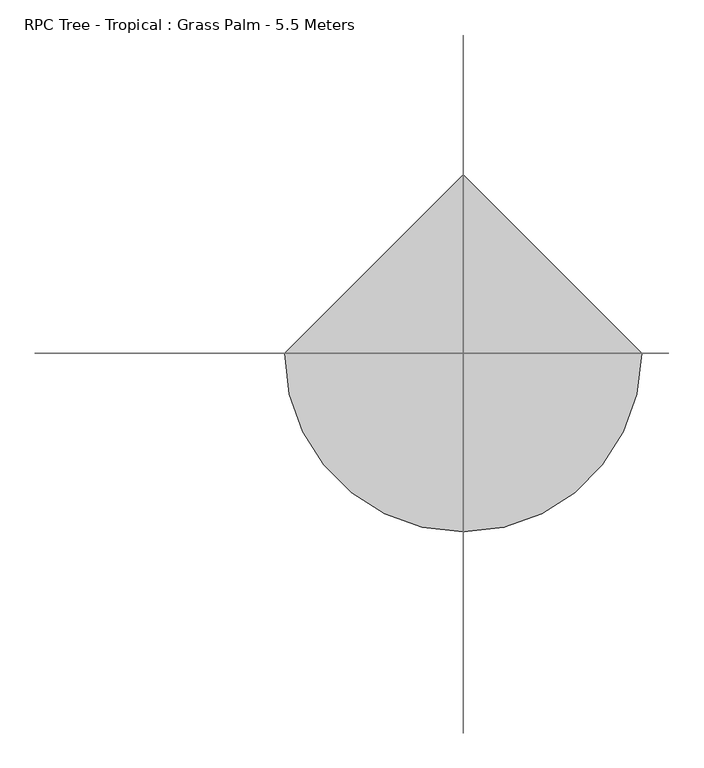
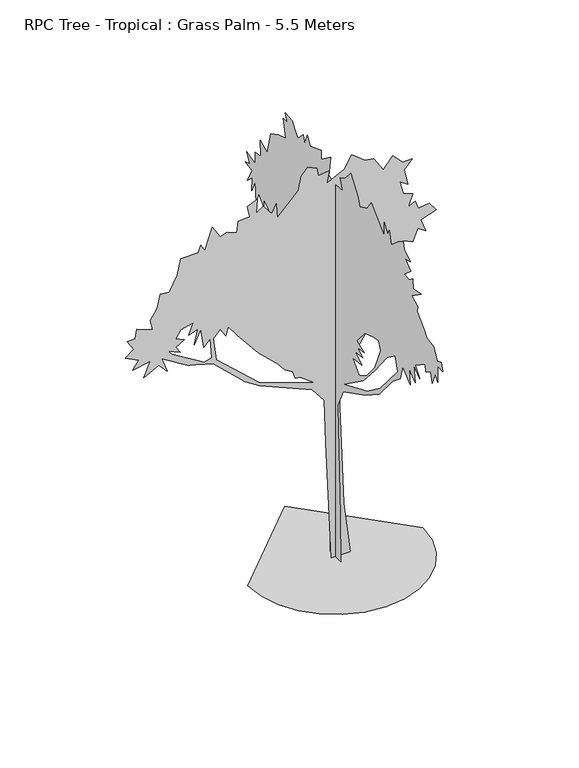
"""IFC4 building model written with IfcOpenShell, lengths in millimetres: geographic element geometry, RPC Tree - Tropical : Grass Palm - 5.5 Meters."""

from ifc_helpers import new_model, si_unit, origin, place, context, project, spatial, triangles, source, transform, mapped, element, save


def rpc_tree_tropical_grass_palm_5_5_meters_0f61173e(model_context):
    return source(origin(), model_context, "Body", "Tessellation", [
        triangles([(198.5121563, -0.0004669, 0.000137), (109.5820013, -0.0002641, 696.282209), (43.8536913, 0.0002053, 2386.4069527), (410.3796021, 0.0003086, 2969.8983719), (572.0261307, 0.000406, 3417.6646454), (609.3777389, 0.0004587, 3632.4192696), (721.4325634, 0.000452, 3669.7733849), (656.0666405, 0.0004949, 3791.1807999), (749.4469145, 0.0005265, 3959.2618195), (777.4587221, 0.0005019, 3884.5535889), (880.1763622, 0.0005321, 4052.6346085), (1010.9057373, 0.0004946, 3987.2711563), (1076.2717329, 0.0005304, 4155.3521759), (1178.9867569, 0.0004946, 4080.6439453), (1113.6233774, 0.0005527, 4258.0697433), (1319.0559689, 0.0005395, 4323.4331955), (1225.6756222, 0.0005866, 4444.8150307), (1085.6090263, 0.0006027, 4426.1507629), (1042.0062372, 0.0006404, 4540.8870735), (954.8795786, 0.0006402, 4491.5142151), (1010.9057373, 0.0006749, 4650.2504562), (889.3481134, 0.0007069, 4700.3869308), (842.8247177, 0.0007612, 4874.3754387), (945.5397417, 0.0007279, 4808.9864067), (898.8508764, 0.0007933, 5023.7666107), (1001.5685165, 0.0008083, 5135.8289566), (880.1763622, 0.0008266, 5135.8289566), (749.4469145, 0.0008819, 5266.5558609), (628.0548328, 0.0008596, 5117.1393997), (505.3182475, 0.0009317, 5314.2482986), (385.2705606, 0.0009547, 5331.919313), (217.1877242, 0.0010181, 5471.9909958), (114.4714012, 0.000988, 5303.9099762), (-109.6373213, 0.0009913, 5191.8476303), (-81.6239785, 0.0010303, 5350.5838715), (-221.6916826, 0.0010463, 5331.919313), (-240.3675048, 0.0010796, 5443.9816589), (-361.7593503, 0.0011132, 5500.0003326), (-445.7998964, 0.0011005, 5406.6275436), (-483.1515046, 0.0010553, 5219.8569672), (-753.9502007, 0.0010201, 4939.7386002), (-772.6247149, 0.0010762, 5135.8289566), (-828.653417, 0.0010542, 5023.7666107), (-940.7082779, 0.0011092, 5163.8382935), (-1034.0860811, 0.0011055, 5098.4748413), (-1015.4090235, 0.0011535, 5285.2204193), (-1146.140942, 0.001158, 5229.2017456), (-1118.1265909, 0.0011131, 5079.7852844), (-1267.5330963, 0.0011332, 5070.4655045), (-1286.2076832, 0.0010954, 4921.0490433), (-1407.5996922, 0.0011264, 4967.747937), (-1500.9775681, 0.0011329, 4939.7386002), (-1603.6951355, 0.0011941, 5107.8196198), (-1706.4127029, 0.0011309, 4818.3314758), (-1753.1017136, 0.0011633, 4911.7042648), (-1790.4532127, 0.0011436, 4818.3314758), (-2014.5604637, 0.0011774, 4818.3314758), (-2061.249329, 0.0011261, 4603.5768517), (-2163.9668964, 0.0010882, 4407.4609154), (-2285.3590508, 0.0011091, 4416.8059845), (-2322.7106953, 0.0010665, 4239.3798958), (-2416.0885712, 0.0010425, 4099.3337929), (-2382.6964233, 0.0010016, 3967.2572617), (-2593.5117531, 0.0010541, 4043.2895393), (-2612.1760208, 0.0010239, 3921.9077042), (-2714.8935883, 0.0010369, 3912.5629257), (-2630.8658684, 0.0009886, 3781.8360214), (-2742.9029251, 0.0009827, 3697.7827217), (-2565.5024162, 0.0009305, 3604.4099327), (-2640.1853577, 0.0009113, 3492.3475868), (-2416.0885712, 0.0008902, 3539.0464806), (-2500.1287903, 0.0008496, 3342.9564148), (-2304.0361084, 0.0008479, 3445.6739822), (-2191.9813202, 0.000798, 3324.2665672), (-2266.6819931, 0.0008626, 3520.3822128), (-1932.5900311, 0.0007558, 3313.3428154), (-1590.273571, 0.0006787, 3219.8174194), (-1172.1055635, 0.0005081, 2824.7595566), (-982.5363207, 0.0004459, 2701.1877388), (-300.5056764, 0.0002631, 2407.6914093), (-143.5331084, 0.0001855, 2209.3782234), (-126.2243993, 2.09e-05, 1613.6007809), (-53.6101361, -0.0004288, 0.000137), (-1500.9775681, 0.0008979, 3660.4538956), (-1426.2768951, 0.0008562, 3548.3915497), (-1398.2624714, 0.0008824, 3660.4538956), (-1276.8703171, 0.0008209, 3501.6923653), (-1004.3554831, 0.0003611, 3164.2318588), (-746.3927404, 0.0005806, 2912.4030441), (-661.4253977, 0.0005394, 2808.0812141), (-557.8547573, 0.0005067, 2745.340567), (-520.5031128, 0.0004731, 2642.6229996), (-455.1371535, 0.0004607, 2633.2779305), (-268.3816016, 0.0003944, 2493.2088638), (-997.3532215, 0.0005761, 2756.6459816), (-1553.2123158, 0.0007974, 3261.8314247), (-1594.3579147, 0.0008866, 3567.0558174), (-2023.9003006, 0.0008876, 3529.7017021), (-2079.9263866, 0.0009189, 3613.7550018), (-1967.8715984, 0.0009197, 3679.118454), (-2079.9263866, 0.0009519, 3735.136837), (-2014.5604637, 0.00097, 3837.8544044), (-1855.8166649, 0.0009561, 3875.2085197), (-1911.8453671, 0.000924, 3725.8173477), (-1795.9710445, 0.0009167, 3763.5025475), (-1842.3900135, 0.0008704, 3567.2848732), (-1753.1017136, 0.0009076, 3753.8266846), (-1715.750069, 0.0008309, 3492.3475868), (-1631.7095592, 0.0008411, 3576.4008865), (-1612.4492523, 0.0007652, 3307.9445984), (-1712.8319332, 0.0007726, 3279.4007011), (-2135.952618, 0.000907, 3539.0464806), (-2182.6440994, 0.0009293, 3595.0651543), (0.1967722, -126.2945259, 0.0001596), (0.196734, -114.2887362, 634.3486347), (0.1967033, -52.2143547, 2120.548035), (0.1966846, -175.5378682, 2379.5675446), (0.1966095, -673.1974989, 2636.9445671), (0.1965211, -992.9715849, 2843.0418709), (0.1965145, -1302.1785107, 3208.1809204), (0.196489, -1470.9471336, 3342.9564148), (0.1964806, -1526.9732197, 3548.3915497), (0.1964552, -1695.0542393, 3398.9747978), (0.1964594, -1667.0424316, 3604.4099327), (0.1964383, -1807.1091728, 3492.372876), (0.1964439, -1769.7575283, 3716.4725693), (0.1964228, -1909.8242695, 3613.7550018), (0.1964383, -1807.1091728, 3735.136837), (0.1964044, -2031.2188946, 3884.5535889), (0.1964016, -2049.8934814, 3791.1807999), (0.1963861, -2152.6110489, 3847.1994736), (0.1963805, -2189.9600773, 3716.4725693), (0.1963706, -2255.3261456, 3884.5535889), (0.1963607, -2320.6920685, 3809.8450676), (0.1963607, -2320.6920685, 4033.9447609), (0.1963438, -2432.7443859, 4024.6252716), (0.1963495, -2395.3953575, 4136.6623283), (0.1963636, -2302.0150108, 4089.9887238), (0.1963748, -2227.3117218, 4248.7249649), (0.1963988, -2068.5705391, 4276.7340111), (0.1964073, -2012.5418369, 4351.4425323), (0.1963912, -1853.7980381, 4500.8592842), (0.1963898, -1863.1354042, 4575.541935), (0.1964095, -1732.4058838, 4650.2504562), (0.1963771, -1947.175914, 4799.6669174), (0.1964053, -1760.4203075, 4762.3128021), (0.1964067, -1751.0829414, 4893.0397064), (0.196418, -1676.3797977, 4837.0213234), (0.1964349, -1564.3248642, 4846.340522), (0.1964137, -1704.3916054, 4967.747937), (0.1964321, -1583.0019218, 5070.4655045), (0.1964151, -1695.0542393, 5098.4748413), (0.1964363, -1554.9876434, 5182.5028519), (0.1964391, -1536.3105858, 5275.9006393), (0.196456, -1424.2556522, 5210.5371872), (0.19648, -1265.5118534, 5070.4655045), (0.196487, -1218.8229881, 5238.546524), (0.1964927, -1181.4714163, 5163.8382935), (0.1964639, -1106.7706707, 5285.2204193), (0.196504, -1106.7706707, 5098.4748413), (0.1964895, -937.1364029, 5255.9634842), (0.196509, -807.9577326, 5369.2734283), (0.196521, -728.2942812, 5249.9283875), (0.1965471, -555.8361669, 5163.8382935), (0.1965527, -518.4845223, 5266.5558609), (0.1965781, -350.4035028, 5500.0003326), (0.1965964, -229.0103492, 5359.9286499), (0.1966148, -107.618204, 5294.5651978), (0.1966063, -163.6456435, 5145.173735), (0.1966288, -14.2397308, 5135.8289566), (0.1966528, 144.5038522, 5163.8382935), (0.1966472, 107.1527437, 5443.9816589), (0.1966782, 312.5858983, 5294.5651978), (0.1966782, 312.5858983, 5415.9473236), (0.1967163, 564.707464, 5322.5745346), (0.1967261, 630.0734596, 5434.6368805), (0.196736, 695.4368391, 5275.9006393), (0.1967402, 723.4511902, 5378.6182068), (0.1967586, 844.8433445, 5257.2110825), (0.1967684, 910.2093401, 5322.5745346), (0.1967783, 975.5727922, 5425.2921021), (0.1967622, 1134.3165184, 5434.6368805), (0.1967952, 1087.6276531, 5331.919313), (0.1968083, 1174.4359446, 5339.303746), (0.1967995, 1115.6420042, 5098.4748413), (0.1968263, 1293.0603172, 5033.1113892), (0.1968508, 1455.9824947, 4950.7135117), (0.1968629, 1535.8446259, 4640.9053871), (0.1968869, 1694.5882793, 4715.6139084), (0.1968855, 1685.2510586, 4500.8592842), (0.1969038, 1806.6432129, 4482.1694366), (0.1969038, 1806.6432129, 4323.4331955), (0.1969334, 2002.7386562, 4370.1068001), (0.1969223, 1928.9571133, 4250.787339), (0.1969389, 2038.9214767, 4214.579084), (0.1969151, 1881.3465019, 4183.3615128), (0.196932, 1993.4012901, 3987.2711563), (0.1969137, 1872.0091358, 4089.9887238), (0.1969165, 1890.6837227, 3903.2178566), (0.1969038, 1806.6432129, 4080.6439453), (0.196901, 1787.968626, 3800.5002892), (0.1968925, 1731.9399239, 3959.2618195), (0.1968756, 1619.8851357, 3847.1994736), (0.1968756, 1619.8851357, 3949.917041), (0.196869, 1310.8614109, 3745.6530556), (0.1968099, 919.5466335, 3632.4192696), (0.1967908, 792.5526409, 3237.1576401), (0.1967898, 785.995919, 3141.3913925), (0.1967733, 676.7623249, 3072.1575371), (0.1967987, 844.8433445, 2941.4309235), (0.1967817, 732.7884836, 2978.7850388), (0.1968246, 751.4629978, 2782.6946823), (0.1968091, 648.7479738, 2913.4215866), (0.1968063, 630.0734596, 2679.9771149), (0.1968021, 602.0590722, 2782.6946823), (0.1967978, 574.0447211, 2679.9771149), (0.1967908, 527.3558195, 2848.0581345), (0.1967866, 499.3414684, 2689.2966042), (0.1967837, 480.6669542, 2614.6136627), (0.1967781, 443.3153097, 2745.340567), (0.1967682, 377.9493505, 2661.2872673), (0.1967491, 251.276432, 2499.1212936), (0.1966956, 162.3905602, 2114.1747322), (0.1967682, 112.1317639, 1064.5480299), (0.1968089, 116.4897555, 0.0001162), (0.1965757, -631.608831, 2807.9538963), (0.196537, -888.1940414, 3104.5465485), (0.1964954, -1163.6294821, 3449.6205437), (0.1964659, -1358.8922001, 3595.0651543), (0.1964574, -1414.9184315, 3408.3195763), (0.1965169, -1021.2762526, 2939.164492), (0.1965619, -722.832478, 2719.5465019), (0.1966421, -191.6594859, 2493.2088638), (0.1966027, -453.1185631, 2988.104528), (0.1965815, -593.187775, 2997.4493065), (0.1966027, -453.1185631, 3100.1668739), (0.1965773, -621.2021261, 3118.8567215), (0.1965942, -509.0072302, 3191.7316338), (0.1965716, -658.5512272, 3212.2295105), (0.196597, -490.4701713, 3277.5929626), (0.1965705, -666.1620998, 3486.8985008), (0.1965392, -873.3236555, 3557.7363281), (0.1965223, -985.3785164, 3576.4008865), (0.1965161, -1026.231328, 3465.2294746), (0.1965365, -891.2878206, 3143.9121689), (0.1965617, -724.2889297, 2942.0163528), (0.19659, -537.1590729, 2820.0235085), (0.1966111, -397.0924044, 2978.7850388), (-1142.7569189, 0.0, 0.000137), (-1112.5425568, -261.8891381, 0.0001838), (-1026.4879257, -502.3944798, 0.0002268), (-891.4833029, -714.6206245, 0.0002648), (-714.4239796, -891.6799479, 0.0002965), (-502.195255, -1026.6845707, 0.0), (-261.692475, -1112.7392017, 1.54e-05), (0.1967389, -1142.9535639, 2.08e-05), (262.0858013, -1112.7392017, 1.54e-05), (502.5911611, -1026.6845707, 0.0), (714.8172695, -891.6799479, 0.0002965), (891.8765928, -714.6206245, 0.0002648), (1026.8812157, -502.3919363, 0.0002268), (1112.9358467, -261.8891381, 0.0001838), (1143.1502089, 9.99e-05, 0.000137), (0.1965231, 1142.9535639, 0.0002532)], [[95, 110, 96], [86, 3, 87], [87, 3, 88], [88, 3, 89], [106, 105, 107], [89, 3, 90], [90, 3, 91], [74, 73, 75], [42, 41, 43], [14, 13, 15], [98, 113, 99], [72, 71, 73], [96, 110, 97], [110, 109, 97], [70, 69, 71], [24, 23, 25], [26, 25, 27], [85, 84, 86], [55, 54, 56], [53, 52, 54], [104, 103, 105], [10, 9, 11], [108, 107, 109], [100, 99, 101], [46, 45, 47], [47, 45, 48], [66, 65, 67], [68, 67, 69], [16, 15, 17], [17, 15, 18], [35, 34, 36], [73, 71, 75], [64, 63, 65], [7, 6, 8], [3, 86, 4], [19, 18, 20], [32, 31, 33], [1, 83, 2], [83, 82, 2], [2, 82, 3], [82, 81, 3], [28, 27, 29], [12, 11, 13], [81, 80, 3], [4, 86, 5], [5, 86, 6], [21, 20, 22], [44, 43, 45], [27, 25, 29], [25, 23, 29], [60, 59, 61], [99, 113, 101], [49, 48, 50], [57, 56, 58], [6, 86, 8], [38, 37, 39], [37, 36, 39], [39, 36, 40], [36, 34, 40], [65, 63, 67], [67, 63, 69], [69, 63, 71], [71, 63, 75], [92, 91, 93], [91, 3, 93], [93, 3, 94], [3, 80, 94], [80, 79, 94], [94, 79, 95], [79, 78, 95], [95, 78, 110], [78, 77, 110], [110, 77, 111], [77, 76, 111], [111, 76, 112], [76, 75, 112], [112, 75, 113], [75, 63, 113], [113, 63, 101], [101, 63, 102], [97, 109, 84], [109, 107, 84], [8, 86, 9], [63, 62, 102], [62, 61, 102], [61, 59, 102], [102, 59, 103], [59, 58, 103], [58, 56, 103], [56, 54, 103], [18, 15, 20], [15, 13, 20], [13, 11, 20], [54, 52, 103], [52, 51, 103], [51, 50, 103], [103, 50, 105], [105, 50, 107], [107, 50, 84], [84, 50, 86], [86, 50, 9], [50, 48, 9], [48, 45, 9], [40, 34, 41], [30, 29, 31], [31, 29, 33], [33, 29, 34], [11, 9, 20], [29, 23, 34], [23, 22, 34], [34, 22, 41], [22, 20, 41], [20, 9, 41], [9, 45, 41], [45, 43, 41], [226, 245, 246], [245, 226, 227], [233, 116, 117], [126, 127, 128], [209, 210, 211], [198, 199, 200], [213, 214, 215], [196, 197, 198], [226, 246, 247], [200, 201, 202], [144, 145, 146], [238, 239, 240], [194, 195, 196], [218, 219, 220], [215, 216, 217], [158, 159, 160], [211, 212, 213], [245, 227, 228], [244, 245, 228], [131, 132, 133], [236, 237, 238], [234, 235, 236], [122, 123, 124], [133, 134, 135], [124, 125, 126], [156, 157, 158], [233, 226, 247], [192, 193, 194], [202, 203, 204], [151, 152, 153], [171, 172, 173], [175, 176, 177], [233, 117, 118], [232, 233, 118], [232, 118, 119], [231, 232, 119], [231, 119, 120], [230, 231, 120], [230, 120, 121], [217, 218, 220], [230, 121, 122], [229, 230, 122], [146, 147, 148], [177, 178, 179], [181, 182, 183], [188, 189, 190], [135, 136, 137], [135, 137, 138], [213, 215, 217], [173, 174, 175], [153, 154, 155], [183, 184, 185], [129, 130, 131], [165, 166, 167], [149, 150, 151], [161, 162, 163], [180, 181, 183], [192, 194, 196], [225, 114, 115], [224, 225, 115], [224, 115, 116], [223, 224, 116], [156, 158, 160], [233, 247, 248], [180, 183, 185], [179, 180, 185], [209, 211, 213], [167, 168, 169], [165, 167, 169], [164, 165, 169], [190, 191, 192], [248, 234, 236], [222, 223, 116], [222, 116, 233], [196, 198, 200], [222, 233, 248], [221, 222, 248], [220, 221, 248], [142, 143, 144], [217, 220, 248], [192, 196, 200], [151, 153, 155], [151, 155, 156], [149, 151, 156], [243, 244, 228], [243, 228, 229], [144, 146, 148], [144, 148, 149], [217, 248, 236], [138, 139, 140], [207, 208, 209], [200, 202, 204], [192, 200, 204], [190, 192, 204], [188, 190, 204], [188, 204, 205], [188, 205, 206], [209, 213, 217], [209, 217, 236], [209, 236, 238], [209, 238, 240], [207, 209, 240], [206, 207, 240], [206, 240, 241], [188, 206, 241], [187, 188, 241], [186, 187, 241], [185, 186, 241], [179, 185, 241], [177, 179, 241], [175, 177, 241], [173, 175, 241], [171, 173, 241], [170, 171, 241], [169, 170, 241], [164, 169, 241], [164, 241, 242], [164, 242, 243], [163, 164, 243], [161, 163, 243], [160, 161, 243], [160, 243, 229], [156, 160, 229], [149, 156, 229], [144, 149, 229], [142, 144, 229], [141, 142, 229], [141, 229, 122], [141, 122, 124], [141, 124, 126], [141, 126, 128], [141, 128, 129], [140, 141, 129], [138, 140, 129], [138, 129, 131], [138, 131, 133], [138, 133, 135], [263, 264, 249], [262, 263, 249], [262, 249, 250], [261, 262, 250], [261, 250, 251], [261, 251, 252], [260, 261, 252], [259, 260, 252], [259, 252, 253], [259, 253, 254], [259, 254, 255], [259, 255, 256], [259, 256, 257], [259, 257, 258]], closed=False),
    ])


if __name__ == "__main__":
    model = new_model("IFC4")
    model_context = context("Model", 3, world=origin())
    ifc_project = project(units=[si_unit("LENGTHUNIT", "METRE", prefix="MILLI")], contexts=[model_context])
    site = spatial("IfcSite", under=ifc_project)
    building = spatial("IfcBuilding", under=site)
    placement = place(None, origin())
    rpc_tree_tropical_grass_palm_5_5_meters_shape = rpc_tree_tropical_grass_palm_5_5_meters_0f61173e(model_context)
    element("IfcGeographicElement", 1, ObjectType="RPC Tree - Tropical : Grass Palm - 5.5 Meters", at=placement, inside=building, context=model_context, shape_type="MappedRepresentation", body=[
        mapped(rpc_tree_tropical_grass_palm_5_5_meters_shape, transform((0.0, 0.0, 0.0), x_axis=(1.0, 0.0, 0.0), y_axis=(0.0, 1.0, 0.0), z_axis=(0.0, 0.0, 1.0))),
    ])
    save(model, "model.ifc")
